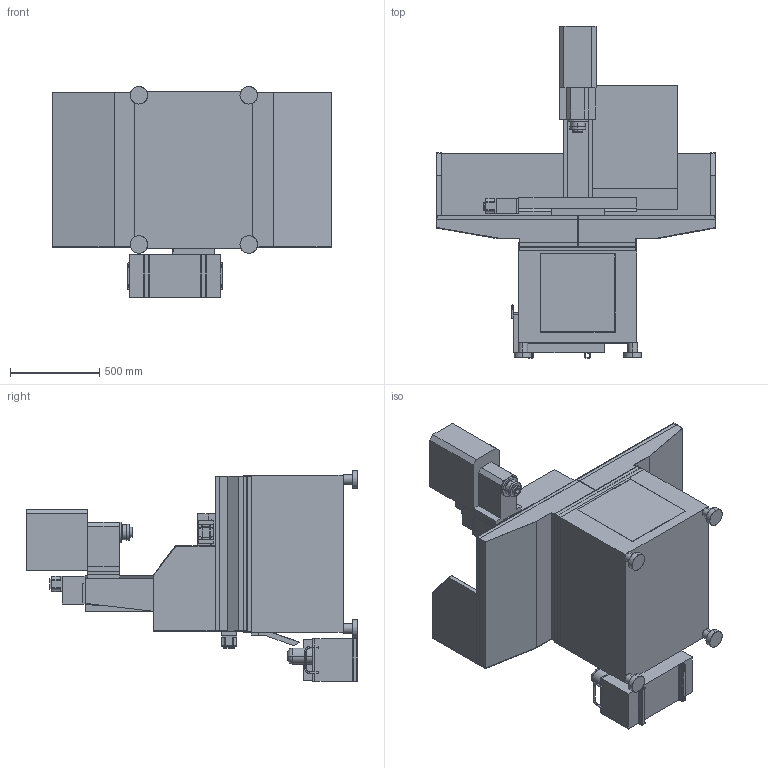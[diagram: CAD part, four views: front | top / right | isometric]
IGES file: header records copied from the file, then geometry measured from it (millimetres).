
Start section: SolidWorks IGES file using analytic representation for surfaces
Global section: file name: R:\Drawings\Files saved as other types\Solid_Models\MODELS FOR PUBLIC\770_BASE_AND_MACHINE_ASSEMBLY.IGS; native system: SolidWorks 2012; preprocessor: SolidWorks 2012; author: rtooley; date: 140702.091833; units: millimetre
Bounding box: 1564 x 1859 x 1182 mm (x, y, z)
Surface area: 15358749.4 mm2 (no closed solid volume)
Topology: 0 solids, 0 shells, 904 faces, 8217 edges, 8206 vertices
Faces by surface type: bspline 686, revolution 218
